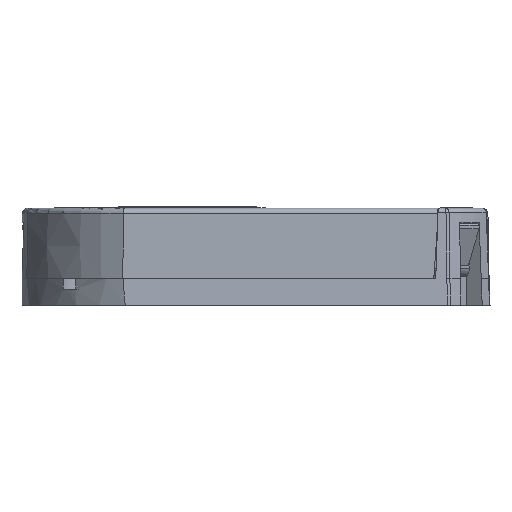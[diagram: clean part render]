
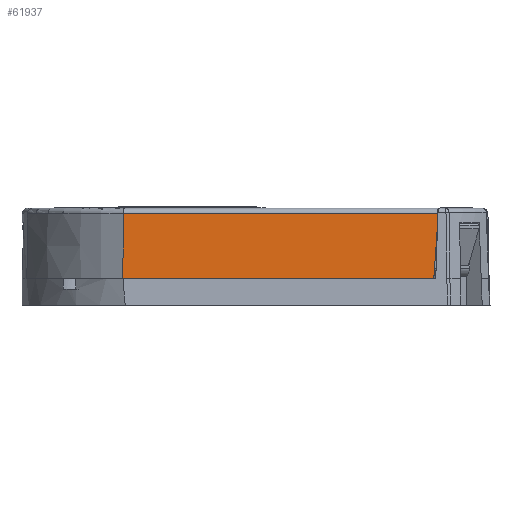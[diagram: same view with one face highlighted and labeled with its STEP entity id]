
A CAD part, left-side view. The second image highlights one B-rep face of the part: STEP entity #61937.
In plain terms, the highlighted planar face has unit normal (-1, 0, 0.018) as drawn and (1, 0, -0.017) by its records, which use the part's own axes.
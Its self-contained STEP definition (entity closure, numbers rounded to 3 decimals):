
#7127 = DIRECTION ( 'NONE',  ( 0.017, 0., 1. ) ) ;
#8375 = ORIENTED_EDGE ( 'NONE', *, *, #70486, .F. ) ;
#10883 = AXIS2_PLACEMENT_3D ( 'NONE', #35115, #52851, #47592 ) ;
#10987 = CARTESIAN_POINT ( 'NONE',  ( 14.211, -23.192, 1.4 ) ) ;
#11918 = CARTESIAN_POINT ( 'NONE',  ( 14.3, 5.98, 6.5 ) ) ;
#14215 = EDGE_LOOP ( 'NONE', ( #18891, #56310, #41924, #27070, #8375 ) ) ;
#17137 = LINE ( 'NONE', #18778, #41273 ) ;
#17818 = VERTEX_POINT ( 'NONE', #23045 ) ;
#18304 = VERTEX_POINT ( 'NONE', #11918 ) ;
#18778 = CARTESIAN_POINT ( 'NONE',  ( 14.3, -23.192, 6.5 ) ) ;
#18891 = ORIENTED_EDGE ( 'NONE', *, *, #51741, .F. ) ;
#19010 = DIRECTION ( 'NONE',  ( 0., 1., 0. ) ) ;
#19098 = VERTEX_POINT ( 'NONE', #38708 ) ;
#19492 = CARTESIAN_POINT ( 'NONE',  ( 14.3, 5.98, 6.5 ) ) ;
#23045 = CARTESIAN_POINT ( 'NONE',  ( 14.195, 5.959, 0.491 ) ) ;
#27070 = ORIENTED_EDGE ( 'NONE', *, *, #55392, .F. ) ;
#27589 = VERTEX_POINT ( 'NONE', #10987 ) ;
#28009 = CARTESIAN_POINT ( 'NONE',  ( 14.335, -22.695, 8.505 ) ) ;
#32253 = CARTESIAN_POINT ( 'NONE',  ( 14.3, 5.98, 6.5 ) ) ;
#32818 = VECTOR ( 'NONE', #73237, 1000. ) ;
#35115 = CARTESIAN_POINT ( 'NONE',  ( 14.3, 5.98, 6.5 ) ) ;
#38175 = LINE ( 'NONE', #19492, #45320 ) ;
#38708 = CARTESIAN_POINT ( 'NONE',  ( 14.3, -22.835, 6.5 ) ) ;
#41273 = VECTOR ( 'NONE', #7127, 1000. ) ;
#41924 = ORIENTED_EDGE ( 'NONE', *, *, #72933, .F. ) ;
#42339 = FACE_OUTER_BOUND ( 'NONE', #14215, .T. ) ;
#42913 = CARTESIAN_POINT ( 'NONE',  ( 14.23, 5.966, 2.494 ) ) ;
#45320 = VECTOR ( 'NONE', #19010, 1000. ) ;
#47592 = DIRECTION ( 'NONE',  ( -0.017, 0., -1. ) ) ;
#50969 = DIRECTION ( 'NONE',  ( 0.017, 0.07, 0.997 ) ) ;
#51741 = EDGE_CURVE ( 'NONE', #68113, #27589, #17137, .T. ) ;
#52851 = DIRECTION ( 'NONE',  ( 1., 0., -0.017 ) ) ;
#55392 = EDGE_CURVE ( 'NONE', #19098, #18304, #38175, .T. ) ;
#56310 = ORIENTED_EDGE ( 'NONE', *, *, #65254, .T. ) ;
#56687 = VECTOR ( 'NONE', #50969, 1000. ) ;
#57851 = LINE ( 'NONE', #60589, #32818 ) ;
#58468 = LINE ( 'NONE', #28009, #56687 ) ;
#60589 = CARTESIAN_POINT ( 'NONE',  ( 14.195, 5.98, 0.491 ) ) ;
#61937 = ADVANCED_FACE ( 'NONE', ( #42339 ), #69245, .T. ) ;
#65254 = EDGE_CURVE ( 'NONE', #68113, #17818, #57851, .T. ) ;
#65371 = CARTESIAN_POINT ( 'NONE',  ( 14.265, 5.973, 4.497 ) ) ;
#66117 = CARTESIAN_POINT ( 'NONE',  ( 14.195, 5.959, 0.491 ) ) ;
#68113 = VERTEX_POINT ( 'NONE', #71547 ) ;
#69245 = PLANE ( 'NONE',  #10883 ) ;
#70486 = EDGE_CURVE ( 'NONE', #27589, #19098, #58468, .T. ) ;
#70531 = B_SPLINE_CURVE_WITH_KNOTS ( 'NONE', 3,
 ( #32253, #65371, #42913, #66117 ),
 .UNSPECIFIED., .F., .F.,
 ( 4, 4 ),
 ( 0., 0.006 ),
 .UNSPECIFIED. ) ;
#71547 = CARTESIAN_POINT ( 'NONE',  ( 14.195, -23.192, 0.491 ) ) ;
#72933 = EDGE_CURVE ( 'NONE', #18304, #17818, #70531, .T. ) ;
#73237 = DIRECTION ( 'NONE',  ( 0., 1., 0. ) ) ;
